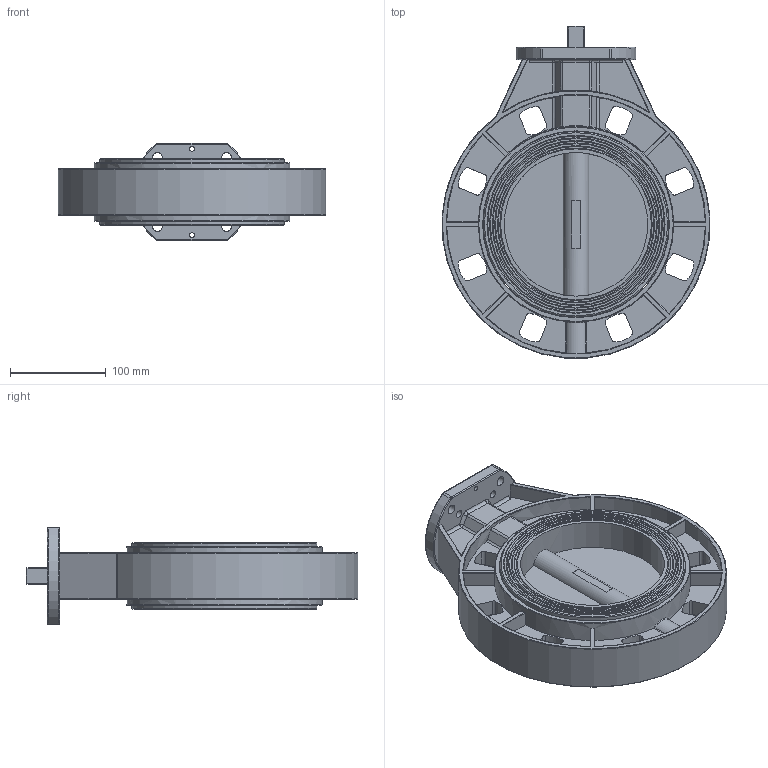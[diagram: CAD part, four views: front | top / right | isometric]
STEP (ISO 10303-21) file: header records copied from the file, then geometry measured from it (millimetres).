
FILE_DESCRIPTION(('STEP AP242'), '1');
FILE_NAME('WBV4242E-2W-Fb-ISO 青蜮铕 滂耜钼 DN.ru 捏150 畜10', '', ('UNSPECIFIED'), ('UNSPECIFIED'), 'C3D Converter', 'C3D Toolkit', '');
FILE_SCHEMA(('AP242_MANAGED_MODEL_BASED_3D_ENGINEERING_MIM_LF { 1 0 10303 442 1 1 4 }'));
Length unit declared in the file: millimetre
Products named in the file (1): WBV4242E-2W-Fb-ISO
Bounding box: 279.46 x 346.48 x 102 mm (x, y, z)
Volume: 2031553 mm3; surface area: 391249.8 mm2
Topology: 1 solids, 3 shells, 439 faces, 1129 edges, 716 vertices
Faces by surface type: cylinder 169, plane 151, torus 74, cone 25, bspline 14, sphere 6
Full cylindrical faces by diameter (mm): 3.132 x2, 3.5 x2, 4 x2, 5 x4, 8 x4, 10 x4, 27 x2, 49.6 x1, 50 x1, 150 x2, 193.2 x1, 194 x1, 204 x2
Entity records: 26513 total; most frequent: CARTESIAN_POINT 12491, DIRECTION 2148, ORIENTED_EDGE 2132, EDGE_CURVE 1066, AXIS2_PLACEMENT_3D 871, VERTEX_POINT 714, EDGE_LOOP 560, FACE_BOUND 478
